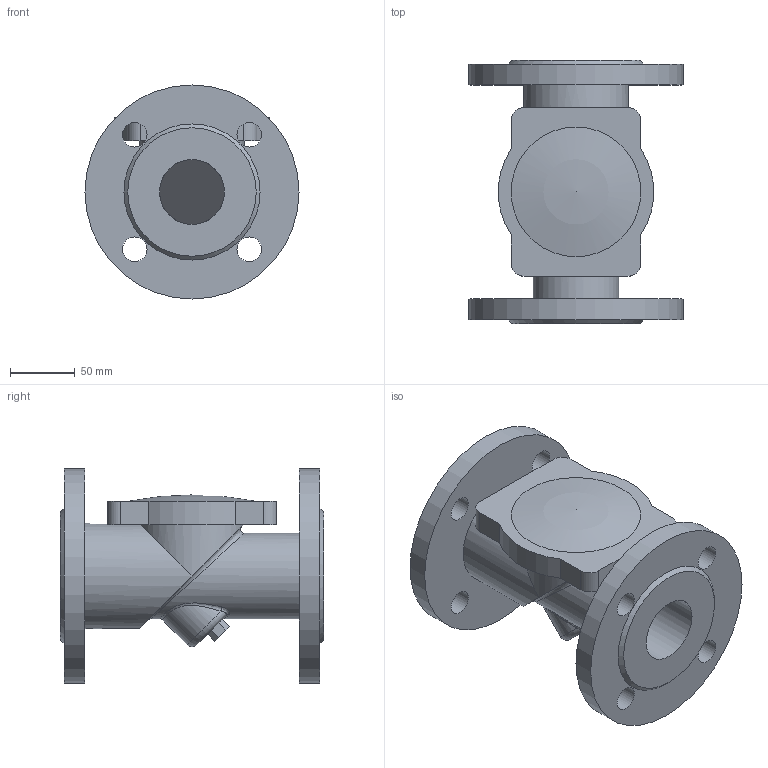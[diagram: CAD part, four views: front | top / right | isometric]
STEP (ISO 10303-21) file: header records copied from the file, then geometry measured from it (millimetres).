
FILE_DESCRIPTION(('STEP AP203'), '1');
FILE_NAME('Êëàïàí îäíîñòâîð÷àòûé îáðàòíûé ôëàíöåâûé 015F.Z DN50 PN10_PN16', '', ('UNSPECIFIED'), ('UNSPECIFIED'), 'ASCON STEP Converter 1.6', 'ASCON Math Kernel', '');
FILE_SCHEMA(('CONFIG_CONTROL_DESIGN'));
Length unit declared in the file: millimetre
Bounding box: 165 x 203 x 165 mm (x, y, z)
Volume: 1249769.1 mm3; surface area: 206790.5 mm2
Topology: 1 solids, 2 shells, 64 faces, 145 edges, 93 vertices
Faces by surface type: cylinder 27, plane 27, bspline 6, cone 2, torus 1, sphere 1
Full cylindrical faces by diameter (mm): 19 x8, 50 x2, 65 x1, 66 x1, 81 x1, 165 x2
Entity records: 3619 total; most frequent: CARTESIAN_POINT 1730, DIRECTION 263, ORIENTED_EDGE 248, EDGE_CURVE 124, AXIS2_PLACEMENT_3D 109, EDGE_LOOP 108, VERTEX_POINT 92, FACE_BOUND 72
